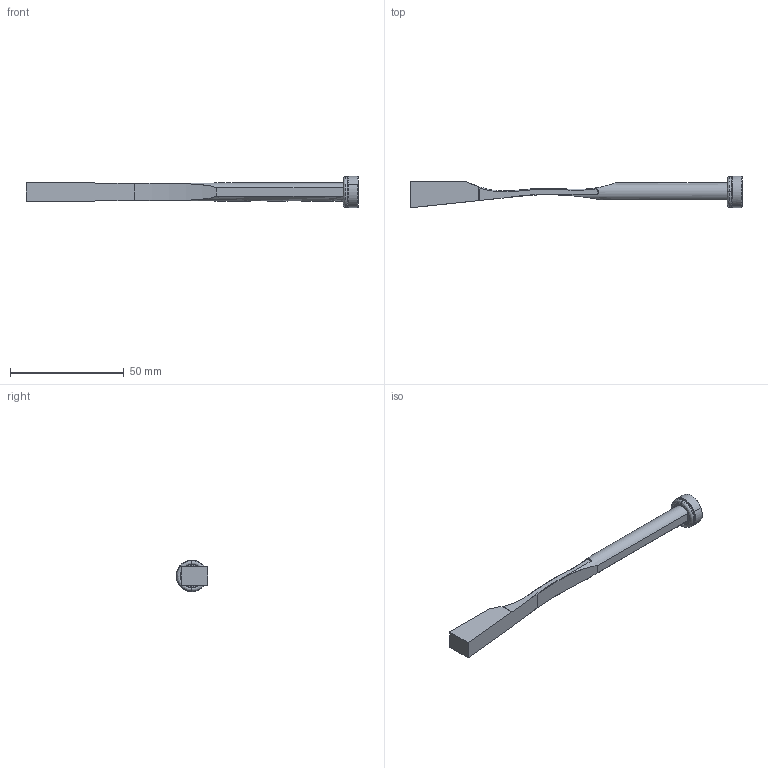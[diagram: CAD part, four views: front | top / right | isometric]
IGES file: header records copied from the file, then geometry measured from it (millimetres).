
Start section: START RECORD GO HERE.
Global section: file name: pw080825_injection.igs; native system: DASSAULT SYSTEMES CATIA V5 R20 - www.3ds.com; preprocessor: CATIA Version 5 Release 20 ; author: Utente; organization: NB04-ASUS; date: 20201108.135145; units: millimetre
Bounding box: 146 x 13.9 x 13.8 mm (x, y, z)
Surface area: 5623.9 mm2 (no closed solid volume)
Topology: 0 solids, 0 shells, 92 faces, 418 edges, 414 vertices
Faces by surface type: revolution 54, plane 32, bspline 6
